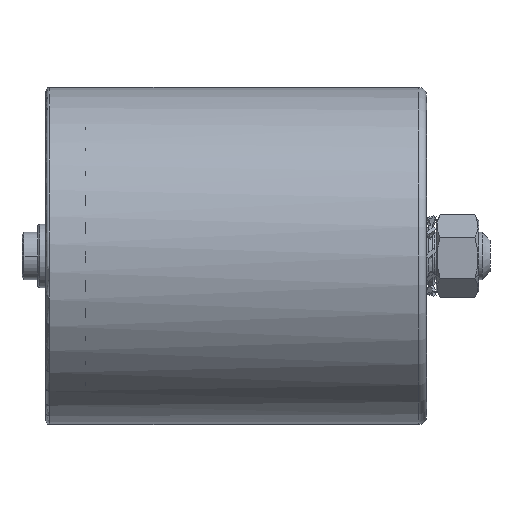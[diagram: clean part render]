
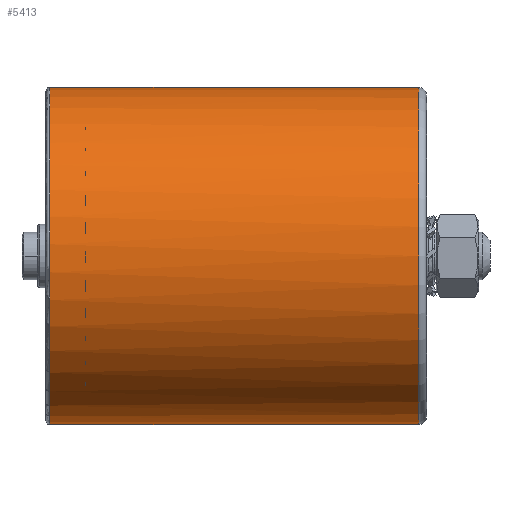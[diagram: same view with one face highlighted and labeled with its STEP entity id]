
A CAD part, left-side view. The second image highlights one B-rep face of the part: STEP entity #5413.
In plain terms, the highlighted cylindrical face has radius 42.5 mm (diameter 85 mm), a partial arc.
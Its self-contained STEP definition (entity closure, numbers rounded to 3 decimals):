
#449 = DIRECTION ( 'NONE',  ( 0., 0., -1. ) ) ;
#557 = DIRECTION ( 'NONE',  ( 0.596, 0., 0.803 ) ) ;
#571 = VERTEX_POINT ( 'NONE', #2484 ) ;
#609 = AXIS2_PLACEMENT_3D ( 'NONE', #2270, #7354, #3620 ) ;
#1048 = CARTESIAN_POINT ( 'NONE',  ( 0., 2., -42.5 ) ) ;
#1070 = VERTEX_POINT ( 'NONE', #7431 ) ;
#1193 = EDGE_CURVE ( 'NONE', #7121, #1070, #3908, .T. ) ;
#1486 = DIRECTION ( 'NONE',  ( 0., -1., 0. ) ) ;
#1591 = DIRECTION ( 'NONE',  ( 0., -1., 0. ) ) ;
#1625 = AXIS2_PLACEMENT_3D ( 'NONE', #4497, #3759, #557 ) ;
#1690 = EDGE_CURVE ( 'NONE', #3032, #1070, #8346, .T. ) ;
#2011 = ORIENTED_EDGE ( 'NONE', *, *, #6304, .T. ) ;
#2270 = CARTESIAN_POINT ( 'NONE',  ( 0., 95., 0. ) ) ;
#2476 = VECTOR ( 'NONE', #3031, 1000. ) ;
#2484 = CARTESIAN_POINT ( 'NONE',  ( -25.343, 95., -34.117 ) ) ;
#2604 = AXIS2_PLACEMENT_3D ( 'NONE', #8337, #1591, #4219 ) ;
#2816 = DIRECTION ( 'NONE',  ( 0., 1., 0. ) ) ;
#3031 = DIRECTION ( 'NONE',  ( 0., -1., 0. ) ) ;
#3032 = VERTEX_POINT ( 'NONE', #6826 ) ;
#3045 = CARTESIAN_POINT ( 'NONE',  ( 0., 2., 0. ) ) ;
#3116 = AXIS2_PLACEMENT_3D ( 'NONE', #3045, #2816, #449 ) ;
#3523 = ORIENTED_EDGE ( 'NONE', *, *, #1193, .T. ) ;
#3620 = DIRECTION ( 'NONE',  ( 0.596, 0., 0.803 ) ) ;
#3759 = DIRECTION ( 'NONE',  ( 0., -1., 0. ) ) ;
#3908 = CIRCLE ( 'NONE', #3116, 42.5 ) ;
#4219 = DIRECTION ( 'NONE',  ( 0., 0., -1. ) ) ;
#4497 = CARTESIAN_POINT ( 'NONE',  ( 0., 95., 0. ) ) ;
#4521 = ORIENTED_EDGE ( 'NONE', *, *, #6285, .T. ) ;
#5042 = LINE ( 'NONE', #5924, #5086 ) ;
#5086 = VECTOR ( 'NONE', #1486, 1000. ) ;
#5202 = ORIENTED_EDGE ( 'NONE', *, *, #5644, .T. ) ;
#5316 = CIRCLE ( 'NONE', #609, 42.5 ) ;
#5413 = ADVANCED_FACE ( 'NONE', ( #7068 ), #5952, .T. ) ;
#5644 = EDGE_CURVE ( 'NONE', #3032, #571, #5316, .T. ) ;
#5924 = CARTESIAN_POINT ( 'NONE',  ( 0., 0., -42.5 ) ) ;
#5952 = CYLINDRICAL_SURFACE ( 'NONE', #2604, 42.5 ) ;
#6189 = VERTEX_POINT ( 'NONE', #8534 ) ;
#6285 = EDGE_CURVE ( 'NONE', #571, #6189, #6511, .T. ) ;
#6304 = EDGE_CURVE ( 'NONE', #6189, #7121, #5042, .T. ) ;
#6511 = CIRCLE ( 'NONE', #1625, 42.5 ) ;
#6826 = CARTESIAN_POINT ( 'NONE',  ( 0., 95., 42.5 ) ) ;
#6925 = ORIENTED_EDGE ( 'NONE', *, *, #1690, .F. ) ;
#7068 = FACE_OUTER_BOUND ( 'NONE', #9062, .T. ) ;
#7121 = VERTEX_POINT ( 'NONE', #1048 ) ;
#7354 = DIRECTION ( 'NONE',  ( 0., -1., 0. ) ) ;
#7431 = CARTESIAN_POINT ( 'NONE',  ( 0., 2., 42.5 ) ) ;
#8250 = CARTESIAN_POINT ( 'NONE',  ( 0., 0., 42.5 ) ) ;
#8337 = CARTESIAN_POINT ( 'NONE',  ( 0., 0., 0. ) ) ;
#8346 = LINE ( 'NONE', #8250, #2476 ) ;
#8534 = CARTESIAN_POINT ( 'NONE',  ( 0., 95., -42.5 ) ) ;
#9062 = EDGE_LOOP ( 'NONE', ( #6925, #5202, #4521, #2011, #3523 ) ) ;
